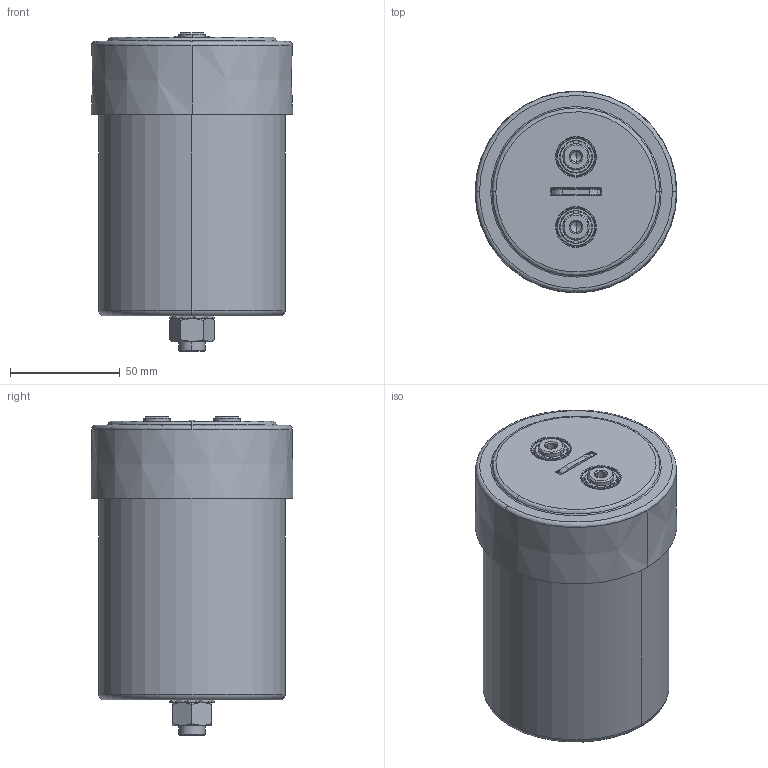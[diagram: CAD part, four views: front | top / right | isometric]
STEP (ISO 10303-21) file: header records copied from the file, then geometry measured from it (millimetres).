
FILE_DESCRIPTION (( 'STEP AP203' ), '1' );
FILE_NAME ('B25680Cx_85x127_129.STEP', '2021-09-13T03:39:27', ( '' ), ( '' ), 'SwSTEP 2.0', 'SolidWorks 2017', '' );
FILE_SCHEMA (( 'CONFIG_CONTROL_DESIGN' ));
Length unit declared in the file: millimetre
Products named in the file (1): B25680Cx_85x127_129
Bounding box: 92.08 x 92.08 x 145 mm (x, y, z)
Volume: 81868.5 mm3; surface area: 140100.9 mm2
Topology: 1 solids, 9 shells, 512 faces, 1230 edges, 772 vertices
Faces by surface type: plane 189, cylinder 168, bspline 64, cone 61, torus 30
Entity records: 19256 total; most frequent: CARTESIAN_POINT 7249, DIRECTION 2594, ORIENTED_EDGE 2452, EDGE_CURVE 1226, AXIS2_PLACEMENT_3D 1041, VERTEX_POINT 772, CIRCLE 592, EDGE_LOOP 572
